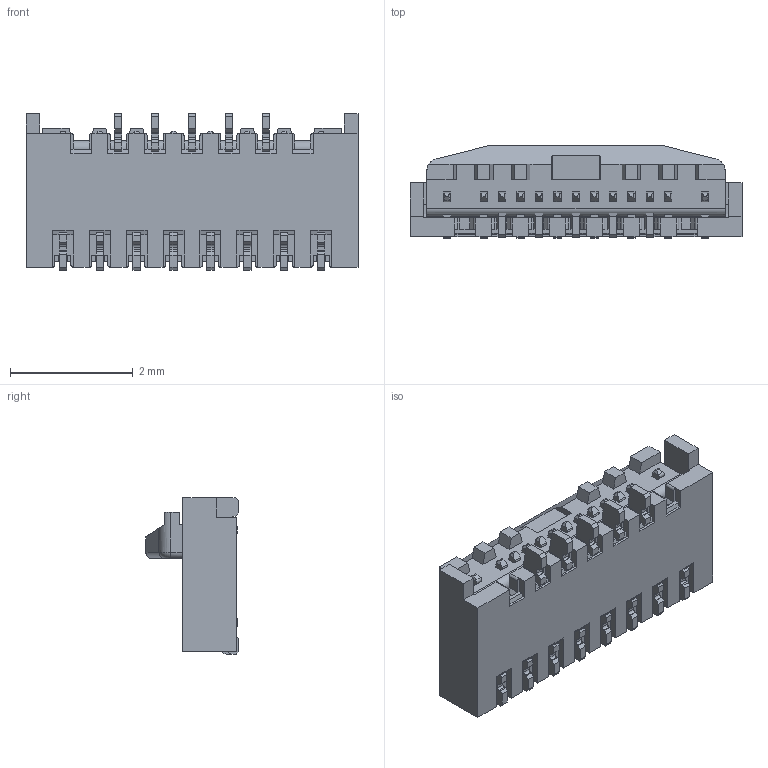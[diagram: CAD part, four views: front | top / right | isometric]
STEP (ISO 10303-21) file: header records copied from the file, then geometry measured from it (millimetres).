
FILE_DESCRIPTION (( 'STEP AP203' ), '1' );
FILE_NAME ('20599-011ExC ASS''Y ACT OPEN STEP R0 Garmin.STEP', '2013-08-06T02:48:46', ( ' ' ), ( ' ' ), 'SwSTEP 2.0', 'SolidWorks 2011', '' );
FILE_SCHEMA (( 'CONFIG_CONTROL_DESIGN' ));
Length unit declared in the file: millimetre
Products named in the file (1): 20599-011ExC ASS''Y ACT OPEN STEP R0 Garmin
Bounding box: 5.4 x 1.5 x 2.55 mm (x, y, z)
Volume: 10.7 mm3; surface area: 64.3 mm2
Topology: 1 solids, 1 shells, 1151 faces, 3390 edges, 2226 vertices
Faces by surface type: plane 930, cylinder 202, bspline 15, sphere 2, torus 2
Entity records: 38499 total; most frequent: CARTESIAN_POINT 7644, ORIENTED_EDGE 6776, DIRECTION 5932, EDGE_CURVE 3388, VECTOR 2884, LINE 2884, VERTEX_POINT 2226, AXIS2_PLACEMENT_3D 1524
